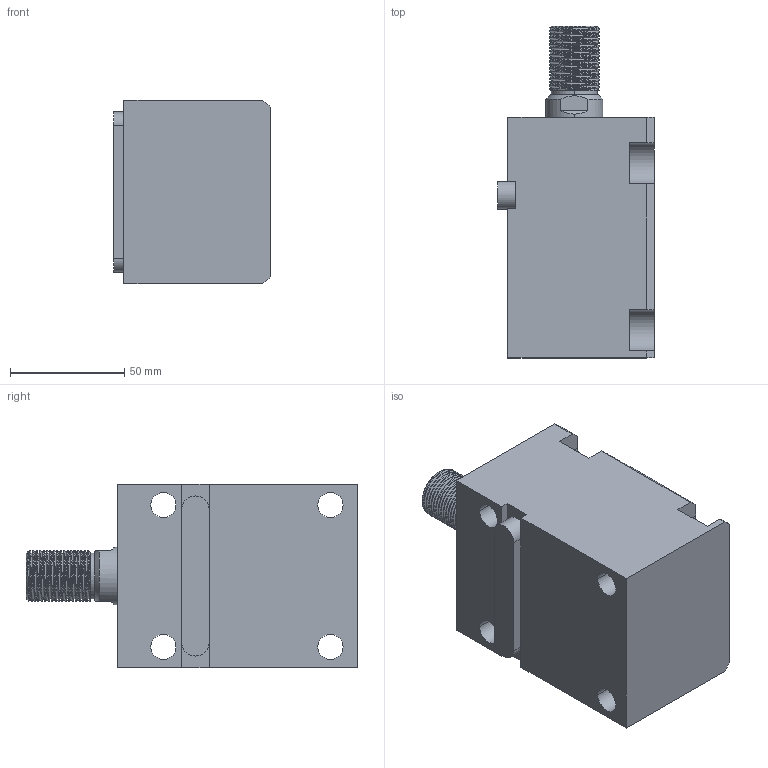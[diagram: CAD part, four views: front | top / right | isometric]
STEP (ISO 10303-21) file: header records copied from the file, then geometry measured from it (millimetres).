
FILE_DESCRIPTION (( 'STEP AP214' ), '1' );
FILE_NAME ('chtb-la40x50w_asm.STEP', '2018-06-04T00:54:37', ( 'Windows' ), ( 'Microsoft' ), 'SwSTEP 2.0', 'SolidWorks 2015', '' );
FILE_SCHEMA (( 'AUTOMOTIVE_DESIGN' ));
Length unit declared in the file: millimetre
Products named in the file (5): CHTB-LA40X50NBT; CHTB-LA40PJ; chtb-la40x50w_asm; CHTB-SD40X50WHSG; CHTB-SD40QG
Assembly tree (4 placements, depth 2):
  chtb-la40x50w_asm
    CHTB-LA40PJ
    CHTB-LA40X50NBT
    CHTB-SD40QG
    CHTB-SD40X50WHSG
Bounding box: 68.5 x 145 x 80 mm (x, y, z)
Volume: 477415.6 mm3; surface area: 91652.8 mm2
Topology: 4 solids, 5 shells, 205 faces, 559 edges, 373 vertices
Faces by surface type: cylinder 111, plane 52, bspline 16, cone 14, torus 12
Entity records: 13775 total; most frequent: CARTESIAN_POINT 8706, ORIENTED_EDGE 1106, DIRECTION 926, EDGE_CURVE 553, VERTEX_POINT 373, AXIS2_PLACEMENT_3D 363, EDGE_LOOP 234, ADVANCED_FACE 205
